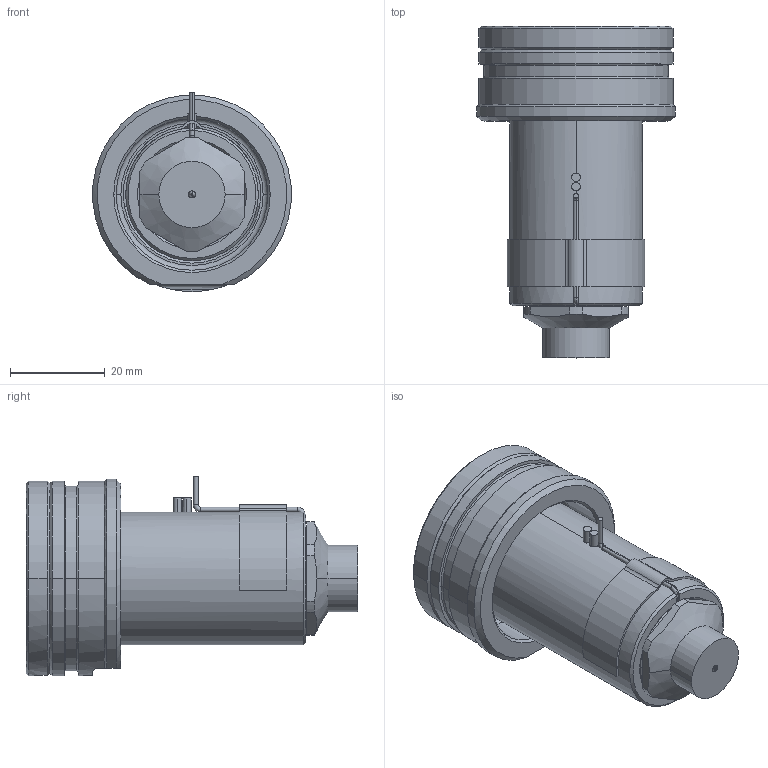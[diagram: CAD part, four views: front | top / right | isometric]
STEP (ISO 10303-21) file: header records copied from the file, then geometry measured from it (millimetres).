
FILE_DESCRIPTION((''),'2;1');
FILE_NAME('EO10_PG-FB_WR_050_SW','2024-02-19T11:34:10',('sundharh'),(''),'CREO PARAMETRIC BY PTC INC, 2023154','CREO PARAMETRIC BY PTC INC, 2023154','');
FILE_SCHEMA(('CONFIG_CONTROL_DESIGN'));
Length unit declared in the file: millimetre
Products named in the file (1): EO10_PG-FB_WR_050_SW
Bounding box: 41.85 x 70 x 42.02 mm (x, y, z)
Volume: 46168.5 mm3; surface area: 15364.5 mm2
Topology: 1 solids, 1 shells, 201 faces, 544 edges, 338 vertices
Faces by surface type: cylinder 80, plane 59, cone 39, torus 17, bspline 3, sphere 3
Entity records: 7325 total; most frequent: CARTESIAN_POINT 2157, DIRECTION 1128, ORIENTED_EDGE 1080, EDGE_CURVE 540, AXIS2_PLACEMENT_3D 470, VERTEX_POINT 338, CIRCLE 272, EDGE_LOOP 218
